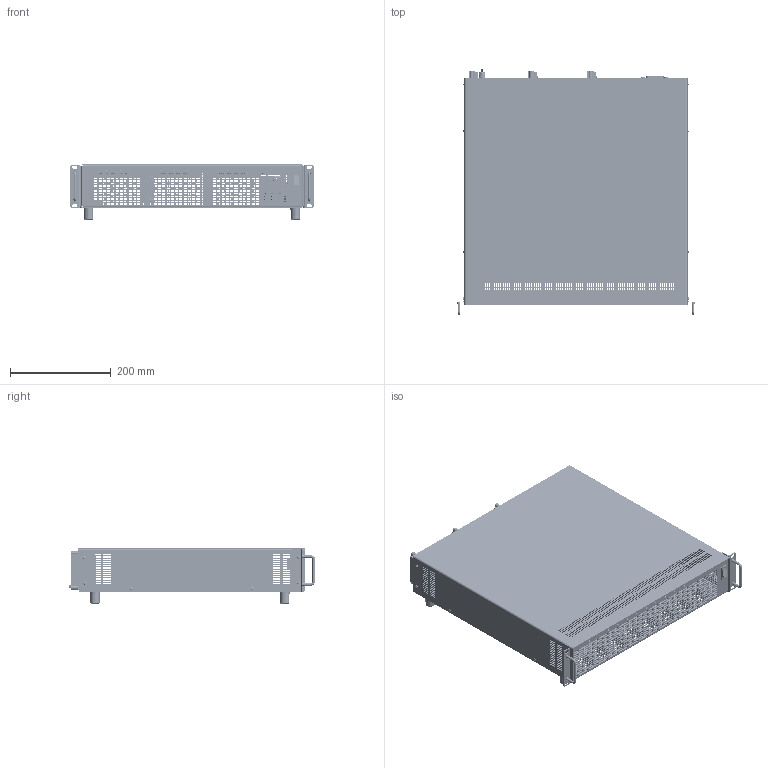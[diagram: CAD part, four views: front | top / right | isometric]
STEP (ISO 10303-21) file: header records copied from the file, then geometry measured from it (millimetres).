
FILE_DESCRIPTION(('STEP AP214'),'1');
FILE_NAME('PMLA_M10_S_19Z_2_PH8_7_62_ST43_3D_01.step','2019-05-10T10:13:49',(' '),(' '),'Spatial InterOp 3D',' ',' ');
FILE_SCHEMA(('AUTOMOTIVE_DESIGN { 1 0 10303 214 1 1 1 1 }'));
Length unit declared in the file: millimetre
Products named in the file (1): 1
Bounding box: 483.3 x 488.5 x 109.5 mm (x, y, z)
Volume: 1021294.9 mm3; surface area: 1259843.6 mm2
Topology: 92 solids, 94 shells, 16266 faces, 43728 edges, 28779 vertices
Faces by surface type: plane 11224, cylinder 3197, cone 1214, torus 272, bspline 205, sphere 148, extrusion 6
Entity records: 675759 total; most frequent: CARTESIAN_POINT 127065, ORIENTED_EDGE 86178, DIRECTION 83595, EDGE_CURVE 43089, VECTOR 33401, LINE 33395, VERTEX_POINT 27877, AXIS2_PLACEMENT_3D 25097
